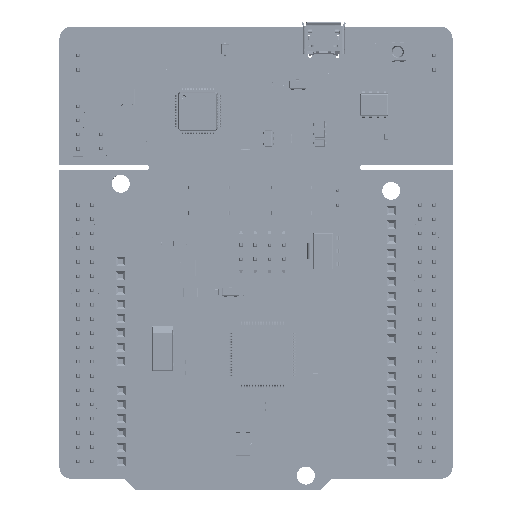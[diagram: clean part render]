
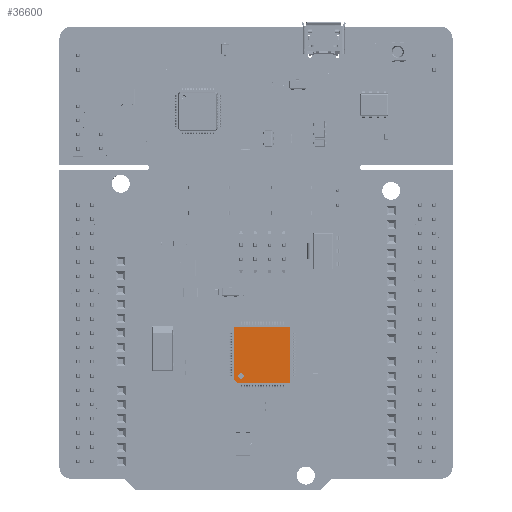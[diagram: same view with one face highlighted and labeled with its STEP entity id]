
A CAD part, top view. The second image highlights one B-rep face of the part: STEP entity #36600.
In plain terms, the highlighted planar face has unit normal (0, 0, 1) as drawn and (0, 1, 0) by its records, which use the part's own axes.
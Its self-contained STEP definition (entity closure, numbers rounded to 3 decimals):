
#34256 = VERTEX_POINT('',#34257);
#34257 = CARTESIAN_POINT('',(-3.82,1.56,-3.32));
#34263 = EDGE_CURVE('',#34264,#34256,#34266,.T.);
#34264 = VERTEX_POINT('',#34265);
#34265 = CARTESIAN_POINT('',(-3.82,1.56,-4.32));
#34266 = CIRCLE('',#34267,0.5);
#34267 = AXIS2_PLACEMENT_3D('',#34268,#34269,#34270);
#34268 = CARTESIAN_POINT('',(-3.82,1.56,-3.82));
#34269 = DIRECTION('',(0.,1.,0.));
#34270 = DIRECTION('',(0.,0.,1.));
#34839 = EDGE_CURVE('',#34840,#34842,#34844,.T.);
#34840 = VERTEX_POINT('',#34841);
#34841 = CARTESIAN_POINT('',(-5.,1.56,-4.5));
#34842 = VERTEX_POINT('',#34843);
#34843 = CARTESIAN_POINT('',(-5.,1.56,5.));
#34844 = LINE('',#34845,#34846);
#34845 = CARTESIAN_POINT('',(-5.,1.56,5.));
#34846 = VECTOR('',#34847,1.);
#34847 = DIRECTION('',(0.,0.,1.));
#35432 = VERTEX_POINT('',#35433);
#35433 = CARTESIAN_POINT('',(5.,1.56,5.));
#35439 = EDGE_CURVE('',#34842,#35432,#35440,.T.);
#35440 = LINE('',#35441,#35442);
#35441 = CARTESIAN_POINT('',(5.,1.56,5.));
#35442 = VECTOR('',#35443,1.);
#35443 = DIRECTION('',(1.,0.,0.));
#36007 = VERTEX_POINT('',#36008);
#36008 = CARTESIAN_POINT('',(5.,1.56,-5.));
#36014 = EDGE_CURVE('',#35432,#36007,#36015,.T.);
#36015 = LINE('',#36016,#36017);
#36016 = CARTESIAN_POINT('',(5.,1.56,5.));
#36017 = VECTOR('',#36018,1.);
#36018 = DIRECTION('',(0.,0.,-1.));
#36582 = VERTEX_POINT('',#36583);
#36583 = CARTESIAN_POINT('',(-4.5,1.56,-5.));
#36589 = EDGE_CURVE('',#36007,#36582,#36590,.T.);
#36590 = LINE('',#36591,#36592);
#36591 = CARTESIAN_POINT('',(5.,1.56,-5.));
#36592 = VECTOR('',#36593,1.);
#36593 = DIRECTION('',(-1.,0.,0.));
#36600 = ADVANCED_FACE('',(#36601,#36611),#36623,.T.);
#36601 = FACE_BOUND('',#36602,.T.);
#36602 = EDGE_LOOP('',(#36603,#36610));
#36603 = ORIENTED_EDGE('',*,*,#36604,.F.);
#36604 = EDGE_CURVE('',#34256,#34264,#36605,.T.);
#36605 = CIRCLE('',#36606,0.5);
#36606 = AXIS2_PLACEMENT_3D('',#36607,#36608,#36609);
#36607 = CARTESIAN_POINT('',(-3.82,1.56,-3.82));
#36608 = DIRECTION('',(0.,1.,0.));
#36609 = DIRECTION('',(0.,0.,1.));
#36610 = ORIENTED_EDGE('',*,*,#34263,.F.);
#36611 = FACE_BOUND('',#36612,.T.);
#36612 = EDGE_LOOP('',(#36613,#36614,#36620,#36621,#36622));
#36613 = ORIENTED_EDGE('',*,*,#36589,.T.);
#36614 = ORIENTED_EDGE('',*,*,#36615,.T.);
#36615 = EDGE_CURVE('',#36582,#34840,#36616,.T.);
#36616 = LINE('',#36617,#36618);
#36617 = CARTESIAN_POINT('',(-4.75,1.56,-4.75));
#36618 = VECTOR('',#36619,1.);
#36619 = DIRECTION('',(-0.707,0.,0.707));
#36620 = ORIENTED_EDGE('',*,*,#34839,.T.);
#36621 = ORIENTED_EDGE('',*,*,#35439,.T.);
#36622 = ORIENTED_EDGE('',*,*,#36014,.T.);
#36623 = PLANE('',#36624);
#36624 = AXIS2_PLACEMENT_3D('',#36625,#36626,#36627);
#36625 = CARTESIAN_POINT('',(-5.,1.56,-5.));
#36626 = DIRECTION('',(0.,1.,0.));
#36627 = DIRECTION('',(0.,0.,1.));
